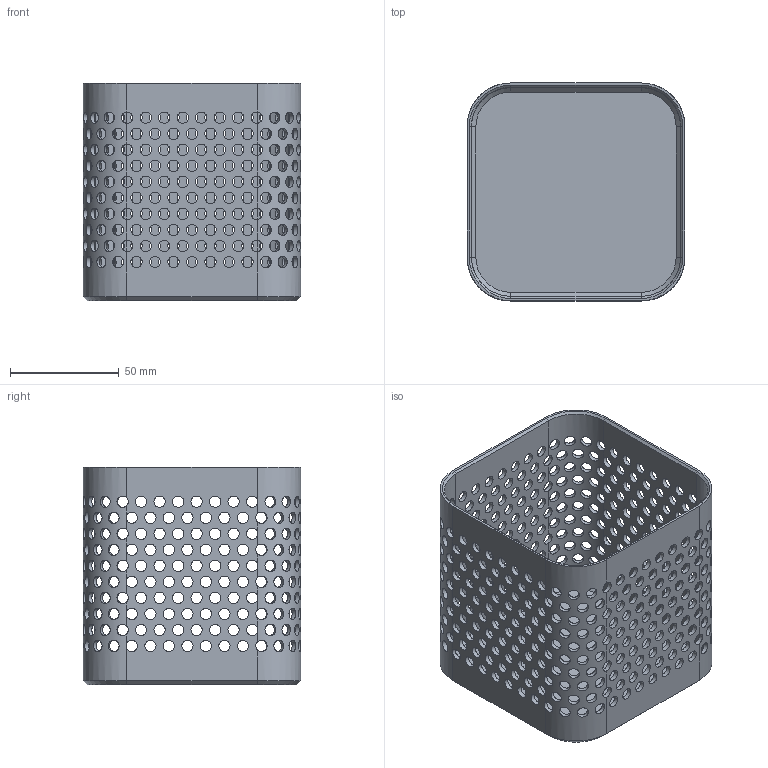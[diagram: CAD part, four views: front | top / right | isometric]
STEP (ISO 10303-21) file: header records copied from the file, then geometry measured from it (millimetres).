
FILE_DESCRIPTION(/* description */ (''),/* implementation_level */ '2;1');
FILE_NAME(/* name */ 'Box 10x10x10.step',/* time_stamp */ '2023-12-22T11:37:24+01:00',/* author */ (''),/* organization */ (''),/* preprocessor_version */ 'ST-DEVELOPER v20',/* originating_system */ 'Autodesk Translation Framework v12.14.0.127',/* authorisation */ '');
FILE_SCHEMA (('AUTOMOTIVE_DESIGN { 1 0 10303 214 3 1 1 }'));
Length unit declared in the file: millimetre
Products named in the file (1): Box 2
Bounding box: 100 x 100 x 100 mm (x, y, z)
Volume: 71270.9 mm3; surface area: 85219.5 mm2
Topology: 1 solids, 1 shells, 473 faces, 2306 edges, 1716 vertices
Faces by surface type: cylinder 438, plane 23, cone 12
Full cylindrical faces by diameter (mm): 5.2 x430
Entity records: 34296 total; most frequent: CARTESIAN_POINT 15156, ORIENTED_EDGE 4612, DIRECTION 2982, EDGE_CURVE 2306, VERTEX_POINT 1716, EDGE_LOOP 1214, AXIS2_PLACEMENT_3D 1182, B_SPLINE_CURVE_WITH_KNOTS 980
